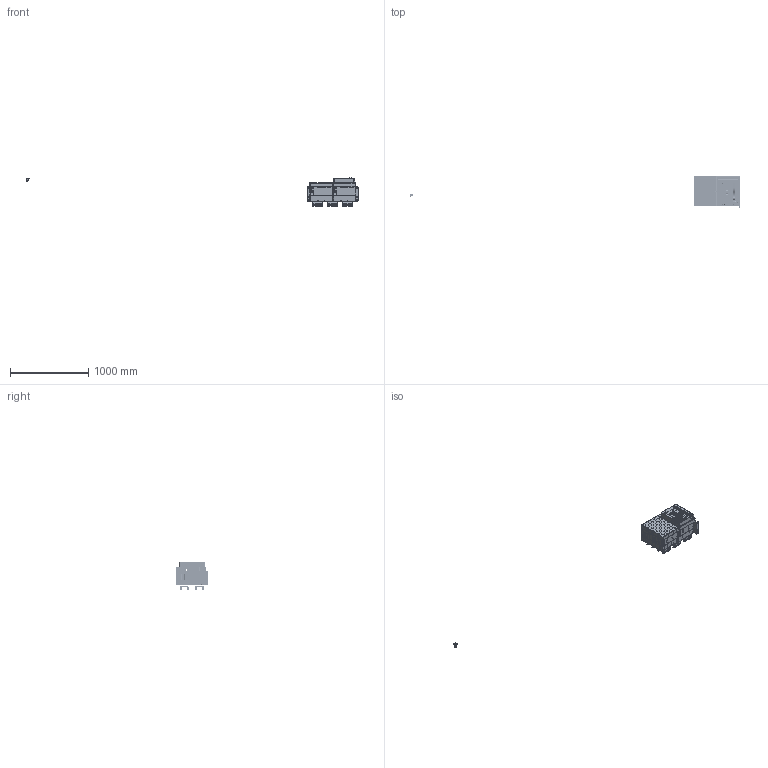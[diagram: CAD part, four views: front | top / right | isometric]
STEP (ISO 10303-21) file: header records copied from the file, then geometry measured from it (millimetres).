
FILE_DESCRIPTION((''),'2;1');
FILE_NAME('HG_19_C503H_FIX_ASM_ASM_ASM','2019-03-29T',('HHI'),(''),'PRO/ENGINEER BY PARAMETRIC TECHNOLOGY CORPORATION, 2012453','PRO/ENGINEER BY PARAMETRIC TECHNOLOGY CORPORATION, 2012453','');
FILE_SCHEMA(('CONFIG_CONTROL_DESIGN'));
Products named in the file (27): PRT0573; PRT0574; PRT0575; PRT0576; PRT0577; PRT0578; ASM0093_ASM; PRT0579; PRT0580; PRT0581; ASM0094_ASM; PRT0582; PRT0583; COVER203_FIX_ASM_9_ASM_ASM; PRT0584; COVER503_FIX_ASM_3_ASM_ASM; PRT0585; PRT0586; PRT0587; FIX_BODY_503_ASM_4_ASM_ASM; PRT0588; C503H_FIX_ASM_3_ASM_ASM; PRT0589; PRT0590; PRT0591; ASM0092_ASM; HG_19_C503H_FIX_ASM_ASM_ASM
Assembly tree (39 placements, depth 8):
  HG_19_C503H_FIX_ASM_ASM_ASM
    ASM0092_ASM
      C503H_FIX_ASM_3_ASM_ASM
        FIX_BODY_503_ASM_4_ASM_ASM
          PRT0573  x2
          PRT0574  x2
          COVER503_FIX_ASM_3_ASM_ASM
            COVER203_FIX_ASM_9_ASM_ASM
              ASM0093_ASM
                PRT0575
                PRT0576
                PRT0577
                PRT0578
              ASM0094_ASM
                PRT0579
                PRT0580
                PRT0581
              PRT0582
              PRT0583
            PRT0584
          PRT0585  x6
          PRT0586
          PRT0587
        PRT0588  x6
      PRT0589
      PRT0590
      PRT0591  x2
Bounding box: 4253.74 x 406 x 366.23 mm (x, y, z)
Volume: 13541604.8 mm3; surface area: 4531349.9 mm2
Topology: 32 solids, 57 shells, 10403 faces, 29380 edges, 19321 vertices
Faces by surface type: plane 6662, cylinder 2880, torus 272, extrusion 239, cone 163, sphere 104, bspline 83
Entity records: 234084 total; most frequent: CARTESIAN_POINT 48698, ORIENTED_EDGE 39336, DIRECTION 37320, EDGE_CURVE 19811, VECTOR 14490, LINE 14317, VERTEX_POINT 13062, AXIS2_PLACEMENT_3D 11415
